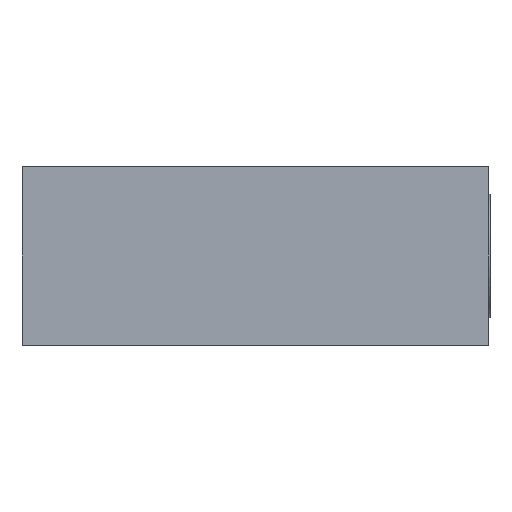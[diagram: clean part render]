
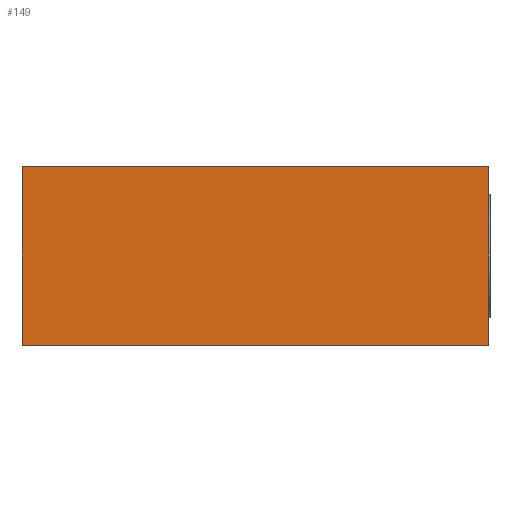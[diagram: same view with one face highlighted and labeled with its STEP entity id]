
A CAD part, left-side view. The second image highlights one B-rep face of the part: STEP entity #149.
In plain terms, the highlighted planar face has unit normal (-1, 0, 0).
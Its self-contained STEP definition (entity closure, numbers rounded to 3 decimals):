
#89 = CARTESIAN_POINT ( 'NONE',  ( 0., 0., -6.5 ) ) ;
#138 = VECTOR ( 'NONE', #713, 1000. ) ;
#146 = LINE ( 'NONE', #324, #1011 ) ;
#149 = ADVANCED_FACE ( 'NONE', ( #811 ), #607, .T. ) ;
#190 = VERTEX_POINT ( 'NONE', #89 ) ;
#202 = DIRECTION ( 'NONE',  ( 0., 0., 1. ) ) ;
#256 = VECTOR ( 'NONE', #1070, 1000. ) ;
#258 = AXIS2_PLACEMENT_3D ( 'NONE', #375, #1068, #468 ) ;
#321 = EDGE_CURVE ( 'NONE', #190, #799, #1033, .T. ) ;
#324 = CARTESIAN_POINT ( 'NONE',  ( 0., 17., -6.5 ) ) ;
#353 = LINE ( 'NONE', #711, #138 ) ;
#364 = ORIENTED_EDGE ( 'NONE', *, *, #321, .T. ) ;
#367 = CARTESIAN_POINT ( 'NONE',  ( 0., 17., -6.5 ) ) ;
#375 = CARTESIAN_POINT ( 'NONE',  ( 0., 17., -6.5 ) ) ;
#376 = ORIENTED_EDGE ( 'NONE', *, *, #515, .F. ) ;
#404 = CARTESIAN_POINT ( 'NONE',  ( 0., 0., -6.5 ) ) ;
#468 = DIRECTION ( 'NONE',  ( 0., -1., 0. ) ) ;
#478 = VECTOR ( 'NONE', #202, 1000. ) ;
#480 = CARTESIAN_POINT ( 'NONE',  ( 0., 17., -6.5 ) ) ;
#508 = DIRECTION ( 'NONE',  ( 0., 0., 1. ) ) ;
#514 = LINE ( 'NONE', #480, #256 ) ;
#515 = EDGE_CURVE ( 'NONE', #800, #747, #146, .T. ) ;
#542 = CARTESIAN_POINT ( 'NONE',  ( 0., 17., 0. ) ) ;
#548 = CARTESIAN_POINT ( 'NONE',  ( 0., 0., 0. ) ) ;
#607 = PLANE ( 'NONE',  #258 ) ;
#711 = CARTESIAN_POINT ( 'NONE',  ( 0., 17., 0. ) ) ;
#713 = DIRECTION ( 'NONE',  ( 0., -1., 0. ) ) ;
#747 = VERTEX_POINT ( 'NONE', #542 ) ;
#798 = ORIENTED_EDGE ( 'NONE', *, *, #1024, .T. ) ;
#799 = VERTEX_POINT ( 'NONE', #548 ) ;
#800 = VERTEX_POINT ( 'NONE', #367 ) ;
#801 = EDGE_CURVE ( 'NONE', #747, #799, #353, .T. ) ;
#811 = FACE_OUTER_BOUND ( 'NONE', #829, .T. ) ;
#829 = EDGE_LOOP ( 'NONE', ( #985, #376, #798, #364 ) ) ;
#985 = ORIENTED_EDGE ( 'NONE', *, *, #801, .F. ) ;
#1011 = VECTOR ( 'NONE', #508, 1000. ) ;
#1024 = EDGE_CURVE ( 'NONE', #800, #190, #514, .T. ) ;
#1033 = LINE ( 'NONE', #404, #478 ) ;
#1068 = DIRECTION ( 'NONE',  ( -1., 0., 0. ) ) ;
#1070 = DIRECTION ( 'NONE',  ( 0., -1., 0. ) ) ;
